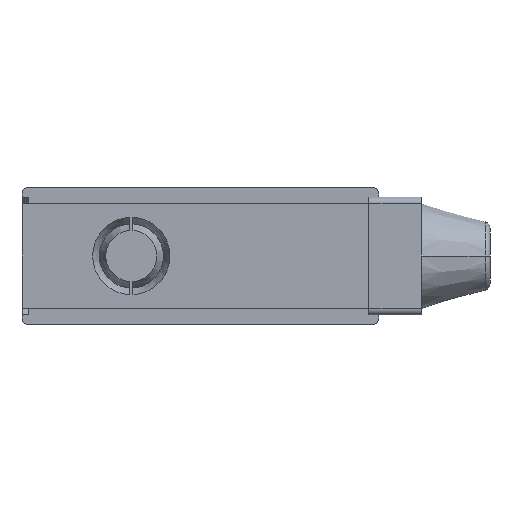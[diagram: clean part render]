
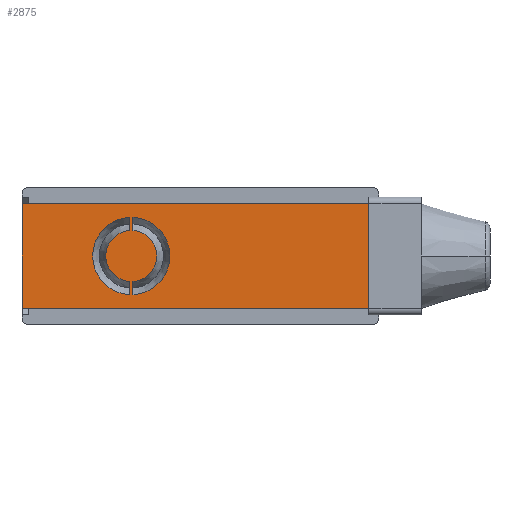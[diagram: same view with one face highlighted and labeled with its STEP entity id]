
A CAD part, front view. The second image highlights one B-rep face of the part: STEP entity #2875.
In plain terms, the highlighted planar face has unit normal (0, -1, 0).
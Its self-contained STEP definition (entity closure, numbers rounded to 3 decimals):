
#295 = AXIS2_PLACEMENT_3D ( 'NONE', #6549, #6550, #6551 ) ;
#296 = AXIS2_PLACEMENT_3D ( 'NONE', #6577, #6578, #6579 ) ;
#312 = VECTOR ( 'NONE', #6619, 1000. ) ;
#356 = VECTOR ( 'NONE', #7920, 1000. ) ;
#368 = VECTOR ( 'NONE', #7953, 1000. ) ;
#394 = VECTOR ( 'NONE', #8034, 1000. ) ;
#460 = AXIS2_PLACEMENT_3D ( 'NONE', #8237, #8238, #8239 ) ;
#463 = AXIS2_PLACEMENT_3D ( 'NONE', #8240, #8241, #8242 ) ;
#464 = VECTOR ( 'NONE', #8257, 1000. ) ;
#465 = VECTOR ( 'NONE', #8260, 1000. ) ;
#466 = VECTOR ( 'NONE', #8263, 1000. ) ;
#468 = VECTOR ( 'NONE', #8266, 1000. ) ;
#713 = FACE_BOUND ( 'NONE', #4198, .T. ) ;
#719 = FACE_BOUND ( 'NONE', #4199, .T. ) ;
#721 = FACE_OUTER_BOUND ( 'NONE', #4200, .T. ) ;
#723 = AXIS2_PLACEMENT_3D ( 'NONE', #9091, #9092, #9093 ) ;
#1744 = ORIENTED_EDGE ( 'NONE', *, *, #2656, .T. ) ;
#1745 = ORIENTED_EDGE ( 'NONE', *, *, #2655, .T. ) ;
#1746 = ORIENTED_EDGE ( 'NONE', *, *, #2482, .F. ) ;
#1747 = ORIENTED_EDGE ( 'NONE', *, *, #2658, .T. ) ;
#1748 = ORIENTED_EDGE ( 'NONE', *, *, #2488, .T. ) ;
#1749 = ORIENTED_EDGE ( 'NONE', *, *, #2657, .T. ) ;
#1750 = ORIENTED_EDGE ( 'NONE', *, *, #2651, .F. ) ;
#1751 = ORIENTED_EDGE ( 'NONE', *, *, #2546, .T. ) ;
#1752 = ORIENTED_EDGE ( 'NONE', *, *, #2652, .T. ) ;
#1753 = ORIENTED_EDGE ( 'NONE', *, *, #2584, .T. ) ;
#1754 = ORIENTED_EDGE ( 'NONE', *, *, #2557, .F. ) ;
#1755 = ORIENTED_EDGE ( 'NONE', *, *, #2501, .F. ) ;
#2482 = EDGE_CURVE ( 'NONE', #4015, #4091, #3351, .T. ) ;
#2488 = EDGE_CURVE ( 'NONE', #4103, #4085, #3353, .T. ) ;
#2501 = EDGE_CURVE ( 'NONE', #4097, #4001, #6617, .T. ) ;
#2546 = EDGE_CURVE ( 'NONE', #4097, #4359, #7918, .T. ) ;
#2557 = EDGE_CURVE ( 'NONE', #4001, #4362, #7951, .T. ) ;
#2584 = EDGE_CURVE ( 'NONE', #4359, #4362, #8032, .T. ) ;
#2651 = EDGE_CURVE ( 'NONE', #4413, #4411, #3377, .T. ) ;
#2652 = EDGE_CURVE ( 'NONE', #4415, #4414, #3378, .T. ) ;
#2655 = EDGE_CURVE ( 'NONE', #4085, #4091, #8255, .T. ) ;
#2656 = EDGE_CURVE ( 'NONE', #4015, #4103, #8258, .T. ) ;
#2657 = EDGE_CURVE ( 'NONE', #4414, #4411, #8261, .T. ) ;
#2658 = EDGE_CURVE ( 'NONE', #4413, #4415, #8264, .T. ) ;
#2875 = ADVANCED_FACE ( 'NONE', ( #713, #719, #721 ), #9090, .F. ) ;
#3351 = CIRCLE ( 'NONE', #295, 5.9 ) ;
#3353 = CIRCLE ( 'NONE', #296, 3.9 ) ;
#3377 = CIRCLE ( 'NONE', #460, 5.9 ) ;
#3378 = CIRCLE ( 'NONE', #463, 3.9 ) ;
#4001 = VERTEX_POINT ( 'NONE', #12216 ) ;
#4015 = VERTEX_POINT ( 'NONE', #12230 ) ;
#4085 = VERTEX_POINT ( 'NONE', #12300 ) ;
#4091 = VERTEX_POINT ( 'NONE', #12306 ) ;
#4097 = VERTEX_POINT ( 'NONE', #12312 ) ;
#4103 = VERTEX_POINT ( 'NONE', #12318 ) ;
#4198 = EDGE_LOOP ( 'NONE', ( #1745, #1746, #1744, #1748 ) ) ;
#4199 = EDGE_LOOP ( 'NONE', ( #1749, #1750, #1747, #1752 ) ) ;
#4200 = EDGE_LOOP ( 'NONE', ( #1753, #1754, #1755, #1751 ) ) ;
#4359 = VERTEX_POINT ( 'NONE', #12333 ) ;
#4362 = VERTEX_POINT ( 'NONE', #12336 ) ;
#4411 = VERTEX_POINT ( 'NONE', #12385 ) ;
#4413 = VERTEX_POINT ( 'NONE', #12387 ) ;
#4414 = VERTEX_POINT ( 'NONE', #12388 ) ;
#4415 = VERTEX_POINT ( 'NONE', #12389 ) ;
#6549 = CARTESIAN_POINT ( 'NONE',  ( -10.55, -19.6, 0. ) ) ;
#6550 = DIRECTION ( 'NONE',  ( 0., -1., 0. ) ) ;
#6551 = DIRECTION ( 'NONE',  ( 0., 0., -1. ) ) ;
#6577 = CARTESIAN_POINT ( 'NONE',  ( -10.55, -19.6, 0. ) ) ;
#6578 = DIRECTION ( 'NONE',  ( 0., -1., 0. ) ) ;
#6579 = DIRECTION ( 'NONE',  ( 0., 0., -1. ) ) ;
#6617 = LINE ( 'NONE', #6618, #312 ) ;
#6618 = CARTESIAN_POINT ( 'NONE',  ( 27.25, -19.6, 7.95 ) ) ;
#6619 = DIRECTION ( 'NONE',  ( 0., 0., -1. ) ) ;
#7918 = LINE ( 'NONE', #7919, #356 ) ;
#7919 = CARTESIAN_POINT ( 'NONE',  ( 27.25, -19.6, 7.95 ) ) ;
#7920 = DIRECTION ( 'NONE',  ( -1., 0., 0. ) ) ;
#7951 = LINE ( 'NONE', #7952, #368 ) ;
#7952 = CARTESIAN_POINT ( 'NONE',  ( 27.25, -19.6, -7.95 ) ) ;
#7953 = DIRECTION ( 'NONE',  ( -1., 0., 0. ) ) ;
#8032 = LINE ( 'NONE', #8033, #394 ) ;
#8033 = CARTESIAN_POINT ( 'NONE',  ( -27.25, -19.6, 7.95 ) ) ;
#8034 = DIRECTION ( 'NONE',  ( 0., 0., -1. ) ) ;
#8237 = CARTESIAN_POINT ( 'NONE',  ( -10.55, -19.6, 0. ) ) ;
#8238 = DIRECTION ( 'NONE',  ( 0., -1., 0. ) ) ;
#8239 = DIRECTION ( 'NONE',  ( 0., 0., -1. ) ) ;
#8240 = CARTESIAN_POINT ( 'NONE',  ( -10.55, -19.6, 0. ) ) ;
#8241 = DIRECTION ( 'NONE',  ( 0., -1., 0. ) ) ;
#8242 = DIRECTION ( 'NONE',  ( 0., 0., -1. ) ) ;
#8255 = LINE ( 'NONE', #8256, #464 ) ;
#8256 = CARTESIAN_POINT ( 'NONE',  ( -10.3, -19.6, -5.9 ) ) ;
#8257 = DIRECTION ( 'NONE',  ( 0., 0., 1. ) ) ;
#8258 = LINE ( 'NONE', #8259, #465 ) ;
#8259 = CARTESIAN_POINT ( 'NONE',  ( -10.3, -19.6, -5.9 ) ) ;
#8260 = DIRECTION ( 'NONE',  ( 0., 0., 1. ) ) ;
#8261 = LINE ( 'NONE', #8262, #466 ) ;
#8262 = CARTESIAN_POINT ( 'NONE',  ( -10.8, -19.6, -5.9 ) ) ;
#8263 = DIRECTION ( 'NONE',  ( 0., 0., -1. ) ) ;
#8264 = LINE ( 'NONE', #8265, #468 ) ;
#8265 = CARTESIAN_POINT ( 'NONE',  ( -10.8, -19.6, -5.9 ) ) ;
#8266 = DIRECTION ( 'NONE',  ( 0., 0., -1. ) ) ;
#9090 = PLANE ( 'NONE',  #723 ) ;
#9091 = CARTESIAN_POINT ( 'NONE',  ( 27.25, -19.6, 7.95 ) ) ;
#9092 = DIRECTION ( 'NONE',  ( 0., 1., 0. ) ) ;
#9093 = DIRECTION ( 'NONE',  ( 0., 0., 1. ) ) ;
#12216 = CARTESIAN_POINT ( 'NONE',  ( 27.25, -19.6, -7.95 ) ) ;
#12230 = CARTESIAN_POINT ( 'NONE',  ( -10.3, -19.6, -5.895 ) ) ;
#12300 = CARTESIAN_POINT ( 'NONE',  ( -10.3, -19.6, 3.892 ) ) ;
#12306 = CARTESIAN_POINT ( 'NONE',  ( -10.3, -19.6, 5.895 ) ) ;
#12312 = CARTESIAN_POINT ( 'NONE',  ( 27.25, -19.6, 7.95 ) ) ;
#12318 = CARTESIAN_POINT ( 'NONE',  ( -10.3, -19.6, -3.892 ) ) ;
#12333 = CARTESIAN_POINT ( 'NONE',  ( -27.25, -19.6, 7.95 ) ) ;
#12336 = CARTESIAN_POINT ( 'NONE',  ( -27.25, -19.6, -7.95 ) ) ;
#12385 = CARTESIAN_POINT ( 'NONE',  ( -10.8, -19.6, -5.895 ) ) ;
#12387 = CARTESIAN_POINT ( 'NONE',  ( -10.8, -19.6, 5.895 ) ) ;
#12388 = CARTESIAN_POINT ( 'NONE',  ( -10.8, -19.6, -3.892 ) ) ;
#12389 = CARTESIAN_POINT ( 'NONE',  ( -10.8, -19.6, 3.892 ) ) ;
